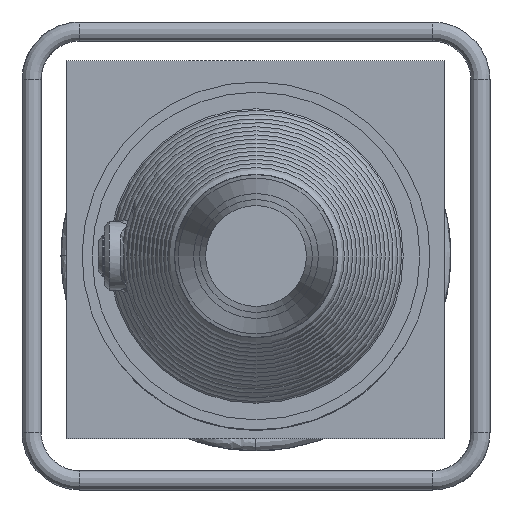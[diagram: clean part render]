
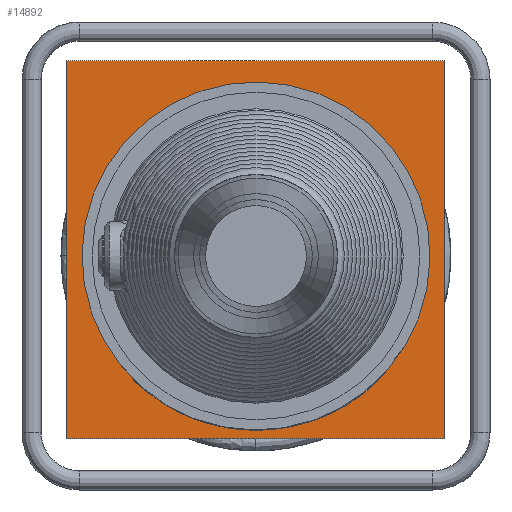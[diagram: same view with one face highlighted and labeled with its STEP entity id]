
A CAD part, left-side view. The second image highlights one B-rep face of the part: STEP entity #14892.
In plain terms, the highlighted planar face has unit normal (-1, 0, 0).
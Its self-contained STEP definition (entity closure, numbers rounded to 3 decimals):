
#1535=PLANE('',#15703);
#2406=LINE('',#38204,#3284);
#2410=LINE('',#38212,#3288);
#2414=LINE('',#38219,#3292);
#2417=LINE('',#38224,#3295);
#3284=VECTOR('',#18134,315.);
#3288=VECTOR('',#18140,315.);
#3292=VECTOR('',#18146,315.);
#3295=VECTOR('',#18151,315.);
#3526=FACE_BOUND('',#5360,.T.);
#4364=FACE_OUTER_BOUND('',#5359,.T.);
#5359=EDGE_LOOP('',(#13508,#13509,#13510,#13511));
#5360=EDGE_LOOP('',(#13512));
#5840=CIRCLE('',#15645,145.);
#7271=VERTEX_POINT('',#34939);
#7291=VERTEX_POINT('',#38202);
#7292=VERTEX_POINT('',#38203);
#7295=VERTEX_POINT('',#38211);
#7297=VERTEX_POINT('',#38218);
#9363=EDGE_CURVE('',#7271,#7271,#5840,.T.);
#9385=EDGE_CURVE('',#7291,#7292,#2406,.T.);
#9389=EDGE_CURVE('',#7292,#7295,#2410,.T.);
#9393=EDGE_CURVE('',#7295,#7297,#2414,.T.);
#9396=EDGE_CURVE('',#7297,#7291,#2417,.T.);
#13508=ORIENTED_EDGE('',*,*,#9396,.T.);
#13509=ORIENTED_EDGE('',*,*,#9385,.T.);
#13510=ORIENTED_EDGE('',*,*,#9389,.T.);
#13511=ORIENTED_EDGE('',*,*,#9393,.T.);
#13512=ORIENTED_EDGE('',*,*,#9363,.T.);
#14892=ADVANCED_FACE('',(#4364,#3526),#1535,.T.);
#15645=AXIS2_PLACEMENT_3D('',#34940,#18024,#18025);
#15703=AXIS2_PLACEMENT_3D('',#38226,#18153,#18154);
#18024=DIRECTION('center_axis',(1.,0.,0.));
#18025=DIRECTION('ref_axis',(0.,0.858,0.513));
#18134=DIRECTION('',(0.,0.,-1.));
#18140=DIRECTION('',(0.,-1.,0.));
#18146=DIRECTION('',(0.,0.,1.));
#18151=DIRECTION('',(0.,1.,0.));
#18153=DIRECTION('center_axis',(-1.,0.,0.));
#18154=DIRECTION('ref_axis',(0.,0.,-1.));
#34939=CARTESIAN_POINT('',(-112.151,124.462,74.392));
#34940=CARTESIAN_POINT('Origin',(-112.151,0.,
0.));
#38202=CARTESIAN_POINT('',(-112.151,157.5,162.753));
#38203=CARTESIAN_POINT('',(-112.151,157.5,-152.247));
#38204=CARTESIAN_POINT('',(-112.151,157.5,162.753));
#38211=CARTESIAN_POINT('',(-112.151,-157.5,-152.247));
#38212=CARTESIAN_POINT('',(-112.151,157.5,-152.247));
#38218=CARTESIAN_POINT('',(-112.151,-157.5,162.753));
#38219=CARTESIAN_POINT('',(-112.151,-157.5,-152.247));
#38224=CARTESIAN_POINT('',(-112.151,-157.5,162.753));
#38226=CARTESIAN_POINT('Origin',(-112.151,0.,
5.253));
